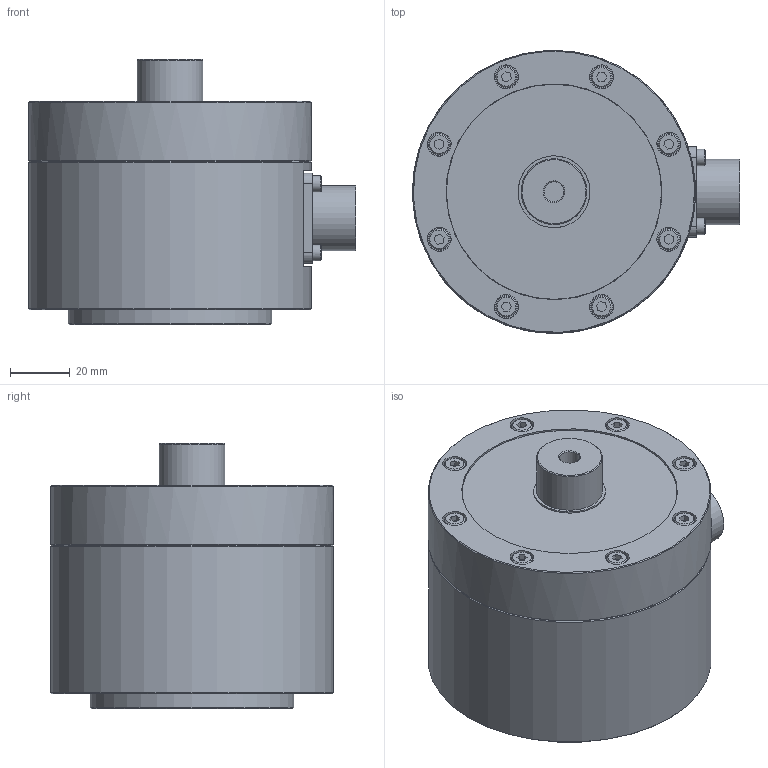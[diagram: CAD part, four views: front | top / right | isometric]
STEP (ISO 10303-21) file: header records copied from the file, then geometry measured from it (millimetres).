
FILE_DESCRIPTION(/* description */ ('Unknown'),/* implementation_level */ '2;1');
FILE_NAME(/* name */ 'C3XK-K010 to K100 SPEC',/* time_stamp */ '2021-05-11T15:12:45+09:00',/* author */ ('Unknown'),/* organization */ ('Unknown'),/* preprocessor_version */ 'ST-DEVELOPER v16.7',/* originating_system */ 'DEX',/* authorisation */ $);
FILE_SCHEMA (('AUTOMOTIVE_DESIGN {1 0 10303 214 3 1 1}'));
Length unit declared in the file: millimetre
Products named in the file (1): C3XK-K010 to K100 SPEC
Bounding box: 109.2 x 94.5 x 88.5 mm (x, y, z)
Volume: 513320.7 mm3; surface area: 44907.7 mm2
Topology: 1 solids, 1 shells, 265 faces, 648 edges, 417 vertices
Faces by surface type: plane 168, cylinder 68, cone 21, torus 8
Full cylindrical faces by diameter (mm): 4 x8, 4.5 x8, 5.5 x4, 6.647 x4, 7 x8, 8 x8, 21.8 x1, 22 x1, 24 x1, 68 x1, 71.8 x1, 72 x1, 94.5 x2
Entity records: 8888 total; most frequent: DIRECTION 1220, CARTESIAN_POINT 1214, ORIENTED_EDGE 1052, EDGE_CURVE 526, AXIS2_PLACEMENT_3D 444, FACE_BOUND 392, EDGE_LOOP 390, VERTEX_POINT 374
